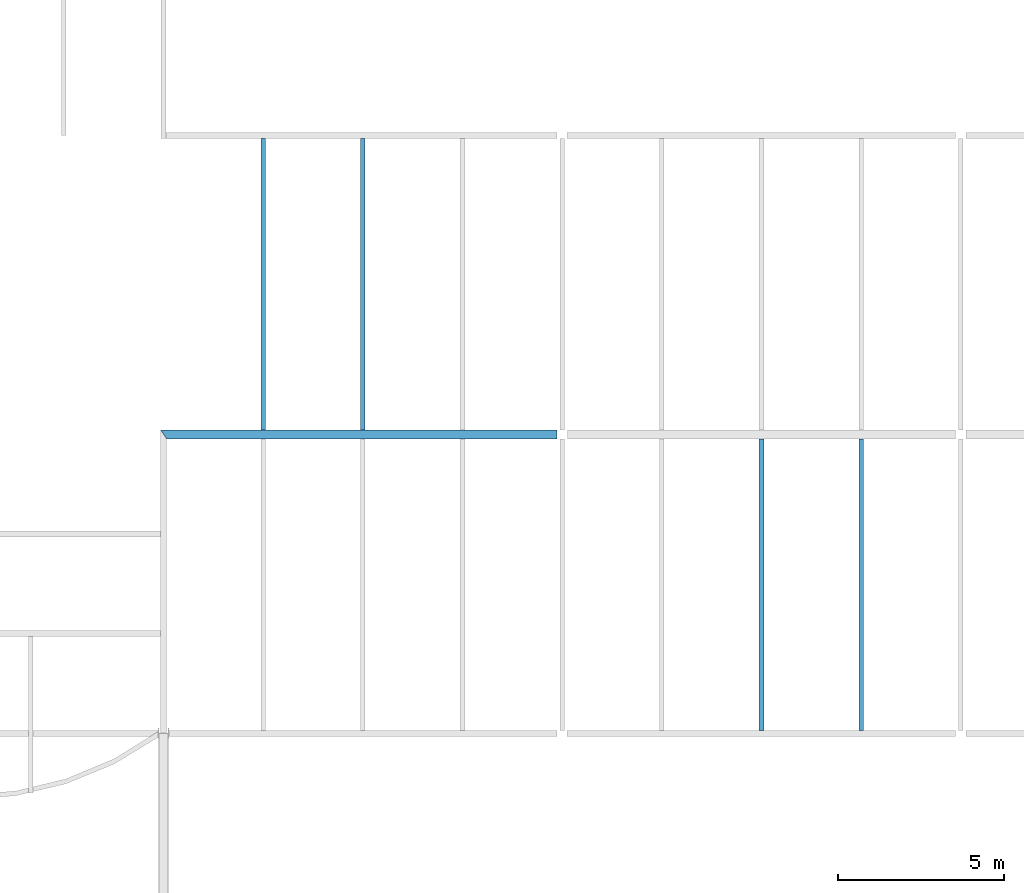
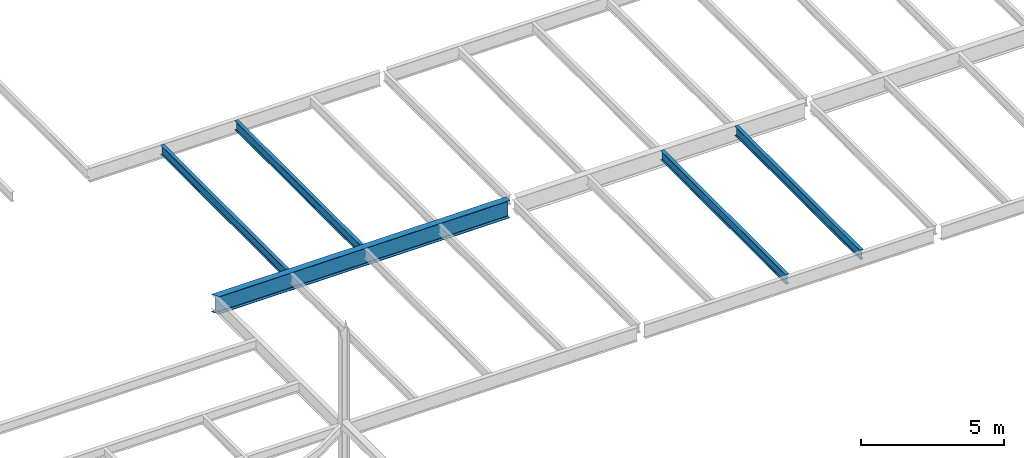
# One storey, part 11 of 21: 5 beams.
"""IFC2X3 building model written with IfcOpenShell, lengths in millimetres."""

from ifc_helpers import new_model, si_unit, origin, place, context, project, spatial, faceted_brep, material, element, save


model = new_model("IFC2X3")

# Units and contexts
context_of_model = context(None, 3, precision=1e-05, world=origin())
ifc_project = project(units=[si_unit("LENGTHUNIT", "METRE", prefix="MILLI")], contexts=[context_of_model])

# Building, storey
building = spatial("IfcBuilding", under=ifc_project, Name="Building", CompositionType="ELEMENT")
storey = spatial("IfcBuildingStorey", under=building, Name="FL6-FRM", CompositionType="ELEMENT")

# Beams
ifc_material_1 = material(Name="A992")
beam_1_placement = place(None, origin())
element("IfcBeam", 1, at=beam_1_placement, inside=storey, material=ifc_material_1, Name="B857", context=context_of_model, shape_type="Brep", body=[
    faceted_brep([(30070.0, 9089.5, 21970.0), (29930.0, 9089.5, 21970.0), (29930.0, 17867.5, 21970.0), (30070.0, 17867.5, 21970.0), (29930.0, 9089.5, 21981.2), (29930.0, 17867.5, 21981.2), (29986.3, 9089.5, 21981.2), (29986.3, 17867.5, 21981.2), (29988.9, 9089.5, 21981.5), (29988.9, 17867.5, 21981.5), (29991.4, 9089.5, 21982.6), (29991.4, 17867.5, 21982.6), (29993.5, 9089.5, 21984.2), (29993.5, 17867.5, 21984.2), (29995.1, 9089.5, 21986.3), (29995.1, 17867.5, 21986.3), (29996.2, 9089.5, 21988.8), (29996.2, 17867.5, 21988.8), (29996.5, 9089.5, 21991.4), (29996.5, 17867.5, 21991.4), (29996.5, 9089.5, 22351.6), (29996.5, 17867.5, 22351.6), (29996.2, 9089.5, 22354.2), (29996.2, 17867.5, 22354.2), (29995.1, 9089.5, 22356.7), (29995.1, 17867.5, 22356.7), (29993.5, 9089.5, 22358.8), (29993.5, 17867.5, 22358.8), (29991.4, 9089.5, 22360.4), (29991.4, 17867.5, 22360.4), (29988.9, 9089.5, 22361.5), (29988.9, 17867.5, 22361.5), (29986.3, 9089.5, 22361.8), (29986.3, 17867.5, 22361.8), (29930.0, 9089.5, 22361.8), (29930.0, 17867.5, 22361.8), (29930.0, 9089.5, 22373.0), (29930.0, 17867.5, 22373.0), (30070.0, 9089.5, 22373.0), (30070.0, 17867.5, 22373.0), (30070.0, 9089.5, 22361.8), (30070.0, 17867.5, 22361.8), (30013.7, 9089.5, 22361.8), (30013.7, 17867.5, 22361.8), (30011.1, 9089.5, 22361.5), (30011.1, 17867.5, 22361.5), (30008.6, 9089.5, 22360.4), (30008.6, 17867.5, 22360.4), (30006.5, 9089.5, 22358.8), (30006.5, 17867.5, 22358.8), (30004.9, 9089.5, 22356.7), (30004.9, 17867.5, 22356.7), (30003.8, 9089.5, 22354.2), (30003.8, 17867.5, 22354.2), (30003.5, 9089.5, 22351.6), (30003.5, 17867.5, 22351.6), (30003.5, 9089.5, 21991.4), (30003.5, 17867.5, 21991.4), (30003.8, 9089.5, 21988.8), (30003.8, 17867.5, 21988.8), (30004.9, 9089.5, 21986.3), (30004.9, 17867.5, 21986.3), (30006.5, 9089.5, 21984.2), (30006.5, 17867.5, 21984.2), (30008.6, 9089.5, 21982.6), (30008.6, 17867.5, 21982.6), (30011.1, 9089.5, 21981.5), (30011.1, 17867.5, 21981.5), (30013.7, 9089.5, 21981.2), (30013.7, 17867.5, 21981.2), (30070.0, 9089.5, 21981.2), (30070.0, 17867.5, 21981.2)], [[[0, 1, 2, 3]], [[1, 4, 5, 2]], [[4, 6, 7, 5]], [[6, 8, 9, 7]], [[8, 10, 11, 9]], [[10, 12, 13, 11]], [[12, 14, 15, 13]], [[14, 16, 17, 15]], [[16, 18, 19, 17]], [[18, 20, 21, 19]], [[20, 22, 23, 21]], [[22, 24, 25, 23]], [[24, 26, 27, 25]], [[26, 28, 29, 27]], [[28, 30, 31, 29]], [[30, 32, 33, 31]], [[32, 34, 35, 33]], [[34, 36, 37, 35]], [[36, 38, 39, 37]], [[38, 40, 41, 39]], [[40, 42, 43, 41]], [[42, 44, 45, 43]], [[44, 46, 47, 45]], [[46, 48, 49, 47]], [[48, 50, 51, 49]], [[50, 52, 53, 51]], [[52, 54, 55, 53]], [[54, 56, 57, 55]], [[56, 58, 59, 57]], [[58, 60, 61, 59]], [[60, 62, 63, 61]], [[62, 64, 65, 63]], [[64, 66, 67, 65]], [[66, 68, 69, 67]], [[68, 70, 71, 69]], [[70, 0, 3, 71]], [[0, 70, 68, 66, 64, 62, 60, 58, 56, 54, 52, 50, 48, 46, 44, 42, 40, 38, 36, 34, 32, 30, 28, 26, 24, 22, 20, 18, 16, 14, 12, 10, 8, 6, 4, 1]], [[3, 2, 5, 7, 9, 11, 13, 15, 17, 19, 21, 23, 25, 27, 29, 31, 33, 35, 37, 39, 41, 43, 45, 47, 49, 51, 53, 55, 57, 59, 61, 63, 65, 67, 69, 71]]]),
])
ifc_material_2 = material(Name="A992")
beam_2_placement = place(None, origin())
element("IfcBeam", 2, at=beam_2_placement, inside=storey, material=ifc_material_2, Name="B860", context=context_of_model, shape_type="Brep", body=[
    faceted_brep([(33070.0, 9089.5, 21970.0), (32930.0, 9089.5, 21970.0), (32930.0, 17867.5, 21970.0), (33070.0, 17867.5, 21970.0), (32930.0, 9089.5, 21981.2), (32930.0, 17867.5, 21981.2), (32986.3, 9089.5, 21981.2), (32986.3, 17867.5, 21981.2), (32988.9, 9089.5, 21981.5), (32988.9, 17867.5, 21981.5), (32991.4, 9089.5, 21982.6), (32991.4, 17867.5, 21982.6), (32993.5, 9089.5, 21984.2), (32993.5, 17867.5, 21984.2), (32995.1, 9089.5, 21986.3), (32995.1, 17867.5, 21986.3), (32996.2, 9089.5, 21988.8), (32996.2, 17867.5, 21988.8), (32996.5, 9089.5, 21991.4), (32996.5, 17867.5, 21991.4), (32996.5, 9089.5, 22351.6), (32996.5, 17867.5, 22351.6), (32996.2, 9089.5, 22354.2), (32996.2, 17867.5, 22354.2), (32995.1, 9089.5, 22356.7), (32995.1, 17867.5, 22356.7), (32993.5, 9089.5, 22358.8), (32993.5, 17867.5, 22358.8), (32991.4, 9089.5, 22360.4), (32991.4, 17867.5, 22360.4), (32988.9, 9089.5, 22361.5), (32988.9, 17867.5, 22361.5), (32986.3, 9089.5, 22361.8), (32986.3, 17867.5, 22361.8), (32930.0, 9089.5, 22361.8), (32930.0, 17867.5, 22361.8), (32930.0, 9089.5, 22373.0), (32930.0, 17867.5, 22373.0), (33070.0, 9089.5, 22373.0), (33070.0, 17867.5, 22373.0), (33070.0, 9089.5, 22361.8), (33070.0, 17867.5, 22361.8), (33013.7, 9089.5, 22361.8), (33013.7, 17867.5, 22361.8), (33011.1, 9089.5, 22361.5), (33011.1, 17867.5, 22361.5), (33008.6, 9089.5, 22360.4), (33008.6, 17867.5, 22360.4), (33006.5, 9089.5, 22358.8), (33006.5, 17867.5, 22358.8), (33004.9, 9089.5, 22356.7), (33004.9, 17867.5, 22356.7), (33003.8, 9089.5, 22354.2), (33003.8, 17867.5, 22354.2), (33003.5, 9089.5, 22351.6), (33003.5, 17867.5, 22351.6), (33003.5, 9089.5, 21991.4), (33003.5, 17867.5, 21991.4), (33003.8, 9089.5, 21988.8), (33003.8, 17867.5, 21988.8), (33004.9, 9089.5, 21986.3), (33004.9, 17867.5, 21986.3), (33006.5, 9089.5, 21984.2), (33006.5, 17867.5, 21984.2), (33008.6, 9089.5, 21982.6), (33008.6, 17867.5, 21982.6), (33011.1, 9089.5, 21981.5), (33011.1, 17867.5, 21981.5), (33013.7, 9089.5, 21981.2), (33013.7, 17867.5, 21981.2), (33070.0, 9089.5, 21981.2), (33070.0, 17867.5, 21981.2)], [[[0, 1, 2, 3]], [[1, 4, 5, 2]], [[4, 6, 7, 5]], [[6, 8, 9, 7]], [[8, 10, 11, 9]], [[10, 12, 13, 11]], [[12, 14, 15, 13]], [[14, 16, 17, 15]], [[16, 18, 19, 17]], [[18, 20, 21, 19]], [[20, 22, 23, 21]], [[22, 24, 25, 23]], [[24, 26, 27, 25]], [[26, 28, 29, 27]], [[28, 30, 31, 29]], [[30, 32, 33, 31]], [[32, 34, 35, 33]], [[34, 36, 37, 35]], [[36, 38, 39, 37]], [[38, 40, 41, 39]], [[40, 42, 43, 41]], [[42, 44, 45, 43]], [[44, 46, 47, 45]], [[46, 48, 49, 47]], [[48, 50, 51, 49]], [[50, 52, 53, 51]], [[52, 54, 55, 53]], [[54, 56, 57, 55]], [[56, 58, 59, 57]], [[58, 60, 61, 59]], [[60, 62, 63, 61]], [[62, 64, 65, 63]], [[64, 66, 67, 65]], [[66, 68, 69, 67]], [[68, 70, 71, 69]], [[70, 0, 3, 71]], [[0, 70, 68, 66, 64, 62, 60, 58, 56, 54, 52, 50, 48, 46, 44, 42, 40, 38, 36, 34, 32, 30, 28, 26, 24, 22, 20, 18, 16, 14, 12, 10, 8, 6, 4, 1]], [[3, 2, 5, 7, 9, 11, 13, 15, 17, 19, 21, 23, 25, 27, 29, 31, 33, 35, 37, 39, 41, 43, 45, 47, 49, 51, 53, 55, 57, 59, 61, 63, 65, 67, 69, 71]]]),
])
ifc_material_3 = material(Name="A992")
beam_3_placement = place(None, origin())
element("IfcBeam", 3, at=beam_3_placement, inside=storey, material=ifc_material_3, Name="B864", context=context_of_model, shape_type="Brep", body=[
    faceted_brep([(17930.0, 26910.5, 21970.0), (18070.0, 26910.5, 21970.0), (18070.0, 18132.5, 21970.0), (17930.0, 18132.5, 21970.0), (18070.0, 26910.5, 21981.2), (18070.0, 18132.5, 21981.2), (18013.7, 26910.5, 21981.2), (18013.7, 18132.5, 21981.2), (18011.1, 26910.5, 21981.5), (18011.1, 18132.5, 21981.5), (18008.6, 26910.5, 21982.6), (18008.6, 18132.5, 21982.6), (18006.5, 26910.5, 21984.2), (18006.5, 18132.5, 21984.2), (18004.9, 26910.5, 21986.3), (18004.9, 18132.5, 21986.3), (18003.8, 26910.5, 21988.8), (18003.8, 18132.5, 21988.8), (18003.5, 26910.5, 21991.4), (18003.5, 18132.5, 21991.4), (18003.5, 26910.5, 22351.6), (18003.5, 18132.5, 22351.6), (18003.8, 26910.5, 22354.2), (18003.8, 18132.5, 22354.2), (18004.9, 26910.5, 22356.7), (18004.9, 18132.5, 22356.7), (18006.5, 26910.5, 22358.8), (18006.5, 18132.5, 22358.8), (18008.6, 26910.5, 22360.4), (18008.6, 18132.5, 22360.4), (18011.1, 26910.5, 22361.5), (18011.1, 18132.5, 22361.5), (18013.7, 26910.5, 22361.8), (18013.7, 18132.5, 22361.8), (18070.0, 26910.5, 22361.8), (18070.0, 18132.5, 22361.8), (18070.0, 26910.5, 22373.0), (18070.0, 18132.5, 22373.0), (17930.0, 26910.5, 22373.0), (17930.0, 18132.5, 22373.0), (17930.0, 26910.5, 22361.8), (17930.0, 18132.5, 22361.8), (17986.3, 26910.5, 22361.8), (17986.3, 18132.5, 22361.8), (17988.9, 26910.5, 22361.5), (17988.9, 18132.5, 22361.5), (17991.4, 26910.5, 22360.4), (17991.4, 18132.5, 22360.4), (17993.5, 26910.5, 22358.8), (17993.5, 18132.5, 22358.8), (17995.1, 26910.5, 22356.7), (17995.1, 18132.5, 22356.7), (17996.2, 26910.5, 22354.2), (17996.2, 18132.5, 22354.2), (17996.5, 26910.5, 22351.6), (17996.5, 18132.5, 22351.6), (17996.5, 26910.5, 21991.4), (17996.5, 18132.5, 21991.4), (17996.2, 26910.5, 21988.8), (17996.2, 18132.5, 21988.8), (17995.1, 26910.5, 21986.3), (17995.1, 18132.5, 21986.3), (17993.5, 26910.5, 21984.2), (17993.5, 18132.5, 21984.2), (17991.4, 26910.5, 21982.6), (17991.4, 18132.5, 21982.6), (17988.9, 26910.5, 21981.5), (17988.9, 18132.5, 21981.5), (17986.3, 26910.5, 21981.2), (17986.3, 18132.5, 21981.2), (17930.0, 26910.5, 21981.2), (17930.0, 18132.5, 21981.2)], [[[0, 1, 2, 3]], [[1, 4, 5, 2]], [[4, 6, 7, 5]], [[6, 8, 9, 7]], [[8, 10, 11, 9]], [[10, 12, 13, 11]], [[12, 14, 15, 13]], [[14, 16, 17, 15]], [[16, 18, 19, 17]], [[18, 20, 21, 19]], [[20, 22, 23, 21]], [[22, 24, 25, 23]], [[24, 26, 27, 25]], [[26, 28, 29, 27]], [[28, 30, 31, 29]], [[30, 32, 33, 31]], [[32, 34, 35, 33]], [[34, 36, 37, 35]], [[36, 38, 39, 37]], [[38, 40, 41, 39]], [[40, 42, 43, 41]], [[42, 44, 45, 43]], [[44, 46, 47, 45]], [[46, 48, 49, 47]], [[48, 50, 51, 49]], [[50, 52, 53, 51]], [[52, 54, 55, 53]], [[54, 56, 57, 55]], [[56, 58, 59, 57]], [[58, 60, 61, 59]], [[60, 62, 63, 61]], [[62, 64, 65, 63]], [[64, 66, 67, 65]], [[66, 68, 69, 67]], [[68, 70, 71, 69]], [[70, 0, 3, 71]], [[0, 70, 68, 66, 64, 62, 60, 58, 56, 54, 52, 50, 48, 46, 44, 42, 40, 38, 36, 34, 32, 30, 28, 26, 24, 22, 20, 18, 16, 14, 12, 10, 8, 6, 4, 1]], [[3, 2, 5, 7, 9, 11, 13, 15, 17, 19, 21, 23, 25, 27, 29, 31, 33, 35, 37, 39, 41, 43, 45, 47, 49, 51, 53, 55, 57, 59, 61, 63, 65, 67, 69, 71]]]),
])
ifc_material_4 = material(Name="A992")
beam_4_placement = place(None, origin())
element("IfcBeam", 4, at=beam_4_placement, inside=storey, material=ifc_material_4, Name="Column603", context=context_of_model, shape_type="Brep", body=[
    faceted_brep([(12089.5, 17867.5, 21620.0), (11910.5, 18132.5, 21620.0), (23843.0, 18132.5, 21620.0), (23843.0, 17867.5, 21620.0), (11910.5, 18132.5, 21637.0), (23843.0, 18132.5, 21637.0), (11984.4, 18023.1, 21637.0), (23843.0, 18023.1, 21637.0), (11986.0, 18020.8, 21637.1), (23843.0, 18020.8, 21637.2), (11987.5, 18018.5, 21637.7), (23843.0, 18018.5, 21637.7), (11989.0, 18016.3, 21638.5), (23843.0, 18016.2, 21638.5), (11990.4, 18014.2, 21639.6), (23843.0, 18014.2, 21639.6), (11991.7, 18012.3, 21641.0), (23843.0, 18012.3, 21641.0), (11992.8, 18010.7, 21642.7), (23843.0, 18010.6, 21642.7), (11993.8, 18009.2, 21644.5), (23843.0, 18009.2, 21644.6), (11994.5, 18008.1, 21646.6), (23843.0, 18008.1, 21646.6), (11995.1, 18007.3, 21648.8), (23843.0, 18007.3, 21648.9), (11995.4, 18006.8, 21651.1), (23843.0, 18006.8, 21651.2), (11995.5, 18006.6, 21653.5), (23843.0, 18006.6, 21653.5), (11995.5, 18006.6, 22339.5), (23843.0, 18006.6, 22339.5), (11995.4, 18006.8, 22341.9), (23843.0, 18006.8, 22341.8), (11995.1, 18007.3, 22344.2), (23843.0, 18007.3, 22344.1), (11994.5, 18008.1, 22346.4), (23843.0, 18008.1, 22346.4), (11993.8, 18009.2, 22348.5), (23843.0, 18009.2, 22348.4), (11992.8, 18010.7, 22350.3), (23843.0, 18010.6, 22350.3), (11991.7, 18012.3, 22352.0), (23843.0, 18012.3, 22352.0), (11990.4, 18014.2, 22353.4), (23843.0, 18014.2, 22353.4), (11989.0, 18016.3, 22354.5), (23843.0, 18016.2, 22354.5), (11987.5, 18018.5, 22355.3), (23843.0, 18018.5, 22355.3), (11986.0, 18020.8, 22355.9), (23843.0, 18020.8, 22355.8), (11984.4, 18023.1, 22356.0), (23843.0, 18023.1, 22356.0), (11910.5, 18132.5, 22356.0), (23843.0, 18132.5, 22356.0), (11910.5, 18132.5, 22373.0), (23843.0, 18132.5, 22373.0), (12089.5, 17867.5, 22373.0), (23843.0, 17867.5, 22373.0), (12089.5, 17867.5, 22356.0), (23843.0, 17867.5, 22356.0), (12015.6, 17976.9, 22356.0), (23843.0, 17976.9, 22356.0), (12014.0, 17979.2, 22355.9), (23843.0, 17979.2, 22355.8), (12012.5, 17981.5, 22355.3), (23843.0, 17981.5, 22355.3), (12011.0, 17983.7, 22354.5), (23843.0, 17983.8, 22354.5), (12009.6, 17985.8, 22353.4), (23843.0, 17985.8, 22353.4), (12008.3, 17987.7, 22352.0), (23843.0, 17987.7, 22352.0), (12007.2, 17989.3, 22350.3), (23843.0, 17989.4, 22350.3), (12006.2, 17990.8, 22348.5), (23843.0, 17990.8, 22348.4), (12005.5, 17991.9, 22346.4), (23843.0, 17991.9, 22346.4), (12004.9, 17992.7, 22344.2), (23843.0, 17992.7, 22344.1), (12004.6, 17993.2, 22341.9), (23843.0, 17993.2, 22341.8), (12004.5, 17993.4, 22339.5), (23843.0, 17993.4, 22339.5), (12004.5, 17993.4, 21653.5), (23843.0, 17993.4, 21653.5), (12004.6, 17993.2, 21651.1), (23843.0, 17993.2, 21651.2), (12004.9, 17992.7, 21648.8), (23843.0, 17992.7, 21648.9), (12005.5, 17991.9, 21646.6), (23843.0, 17991.9, 21646.6), (12006.2, 17990.8, 21644.5), (23843.0, 17990.8, 21644.6), (12007.2, 17989.3, 21642.7), (23843.0, 17989.4, 21642.7), (12008.3, 17987.7, 21641.0), (23843.0, 17987.7, 21641.0), (12009.6, 17985.8, 21639.6), (23843.0, 17985.8, 21639.6), (12011.0, 17983.7, 21638.5), (23843.0, 17983.8, 21638.5), (12012.5, 17981.5, 21637.7), (23843.0, 17981.5, 21637.7), (12014.0, 17979.2, 21637.1), (23843.0, 17979.2, 21637.2), (12015.6, 17976.9, 21637.0), (23843.0, 17976.9, 21637.0), (12089.5, 17867.5, 21637.0), (23843.0, 17867.5, 21637.0)], [[[0, 1, 2, 3]], [[1, 4, 5, 2]], [[4, 6, 7, 5]], [[6, 8, 9, 7]], [[8, 10, 11, 9]], [[10, 12, 13, 11]], [[12, 14, 15, 13]], [[14, 16, 17, 15]], [[16, 18, 19, 17]], [[18, 20, 21, 19]], [[20, 22, 23, 21]], [[22, 24, 25, 23]], [[24, 26, 27, 25]], [[26, 28, 29, 27]], [[28, 30, 31, 29]], [[30, 32, 33, 31]], [[32, 34, 35, 33]], [[34, 36, 37, 35]], [[36, 38, 39, 37]], [[38, 40, 41, 39]], [[40, 42, 43, 41]], [[42, 44, 45, 43]], [[44, 46, 47, 45]], [[46, 48, 49, 47]], [[48, 50, 51, 49]], [[50, 52, 53, 51]], [[52, 54, 55, 53]], [[54, 56, 57, 55]], [[56, 58, 59, 57]], [[58, 60, 61, 59]], [[60, 62, 63, 61]], [[62, 64, 65, 63]], [[64, 66, 67, 65]], [[66, 68, 69, 67]], [[68, 70, 71, 69]], [[70, 72, 73, 71]], [[72, 74, 75, 73]], [[74, 76, 77, 75]], [[76, 78, 79, 77]], [[78, 80, 81, 79]], [[80, 82, 83, 81]], [[82, 84, 85, 83]], [[84, 86, 87, 85]], [[86, 88, 89, 87]], [[88, 90, 91, 89]], [[90, 92, 93, 91]], [[92, 94, 95, 93]], [[94, 96, 97, 95]], [[96, 98, 99, 97]], [[98, 100, 101, 99]], [[100, 102, 103, 101]], [[102, 104, 105, 103]], [[104, 106, 107, 105]], [[106, 108, 109, 107]], [[108, 110, 111, 109]], [[110, 0, 3, 111]], [[0, 110, 108, 106, 104, 102, 100, 98, 96, 94, 92, 90, 88, 86, 84, 82, 80, 78, 76, 74, 72, 70, 68, 66, 64, 62, 60, 58, 56, 54, 52, 50, 48, 46, 44, 42, 40, 38, 36, 34, 32, 30, 28, 26, 24, 22, 20, 18, 16, 14, 12, 10, 8, 6, 4, 1]], [[3, 2, 5, 7, 9, 11, 13, 15, 17, 19, 21, 23, 25, 27, 29, 31, 33, 35, 37, 39, 41, 43, 45, 47, 49, 51, 53, 55, 57, 59, 61, 63, 65, 67, 69, 71, 73, 75, 77, 79, 81, 83, 85, 87, 89, 91, 93, 95, 97, 99, 101, 103, 105, 107, 109, 111]]]),
])
ifc_material_5 = material(Name="A992")
beam_5_placement = place(None, origin())
element("IfcBeam", 5, at=beam_5_placement, inside=storey, material=ifc_material_5, Name="B924", context=context_of_model, shape_type="Brep", body=[
    faceted_brep([(14930.0, 26910.5, 21970.0), (15070.0, 26910.5, 21970.0), (15070.0, 18132.5, 21970.0), (14930.0, 18132.5, 21970.0), (15070.0, 26910.5, 21981.2), (15070.0, 18132.5, 21981.2), (15013.7, 26910.5, 21981.2), (15013.7, 18132.5, 21981.2), (15011.1, 26910.5, 21981.5), (15011.1, 18132.5, 21981.5), (15008.6, 26910.5, 21982.6), (15008.6, 18132.5, 21982.6), (15006.5, 26910.5, 21984.2), (15006.5, 18132.5, 21984.2), (15004.9, 26910.5, 21986.3), (15004.9, 18132.5, 21986.3), (15003.8, 26910.5, 21988.8), (15003.8, 18132.5, 21988.8), (15003.5, 26910.5, 21991.4), (15003.5, 18132.5, 21991.4), (15003.5, 26910.5, 22351.6), (15003.5, 18132.5, 22351.6), (15003.8, 26910.5, 22354.2), (15003.8, 18132.5, 22354.2), (15004.9, 26910.5, 22356.7), (15004.9, 18132.5, 22356.7), (15006.5, 26910.5, 22358.8), (15006.5, 18132.5, 22358.8), (15008.6, 26910.5, 22360.4), (15008.6, 18132.5, 22360.4), (15011.1, 26910.5, 22361.5), (15011.1, 18132.5, 22361.5), (15013.7, 26910.5, 22361.8), (15013.7, 18132.5, 22361.8), (15070.0, 26910.5, 22361.8), (15070.0, 18132.5, 22361.8), (15070.0, 26910.5, 22373.0), (15070.0, 18132.5, 22373.0), (14930.0, 26910.5, 22373.0), (14930.0, 18132.5, 22373.0), (14930.0, 26910.5, 22361.8), (14930.0, 18132.5, 22361.8), (14986.3, 26910.5, 22361.8), (14986.3, 18132.5, 22361.8), (14988.9, 26910.5, 22361.5), (14988.9, 18132.5, 22361.5), (14991.4, 26910.5, 22360.4), (14991.4, 18132.5, 22360.4), (14993.5, 26910.5, 22358.8), (14993.5, 18132.5, 22358.8), (14995.1, 26910.5, 22356.7), (14995.1, 18132.5, 22356.7), (14996.2, 26910.5, 22354.2), (14996.2, 18132.5, 22354.2), (14996.5, 26910.5, 22351.6), (14996.5, 18132.5, 22351.6), (14996.5, 26910.5, 21991.4), (14996.5, 18132.5, 21991.4), (14996.2, 26910.5, 21988.8), (14996.2, 18132.5, 21988.8), (14995.1, 26910.5, 21986.3), (14995.1, 18132.5, 21986.3), (14993.5, 26910.5, 21984.2), (14993.5, 18132.5, 21984.2), (14991.4, 26910.5, 21982.6), (14991.4, 18132.5, 21982.6), (14988.9, 26910.5, 21981.5), (14988.9, 18132.5, 21981.5), (14986.3, 26910.5, 21981.2), (14986.3, 18132.5, 21981.2), (14930.0, 26910.5, 21981.2), (14930.0, 18132.5, 21981.2)], [[[0, 1, 2, 3]], [[1, 4, 5, 2]], [[4, 6, 7, 5]], [[6, 8, 9, 7]], [[8, 10, 11, 9]], [[10, 12, 13, 11]], [[12, 14, 15, 13]], [[14, 16, 17, 15]], [[16, 18, 19, 17]], [[18, 20, 21, 19]], [[20, 22, 23, 21]], [[22, 24, 25, 23]], [[24, 26, 27, 25]], [[26, 28, 29, 27]], [[28, 30, 31, 29]], [[30, 32, 33, 31]], [[32, 34, 35, 33]], [[34, 36, 37, 35]], [[36, 38, 39, 37]], [[38, 40, 41, 39]], [[40, 42, 43, 41]], [[42, 44, 45, 43]], [[44, 46, 47, 45]], [[46, 48, 49, 47]], [[48, 50, 51, 49]], [[50, 52, 53, 51]], [[52, 54, 55, 53]], [[54, 56, 57, 55]], [[56, 58, 59, 57]], [[58, 60, 61, 59]], [[60, 62, 63, 61]], [[62, 64, 65, 63]], [[64, 66, 67, 65]], [[66, 68, 69, 67]], [[68, 70, 71, 69]], [[70, 0, 3, 71]], [[0, 70, 68, 66, 64, 62, 60, 58, 56, 54, 52, 50, 48, 46, 44, 42, 40, 38, 36, 34, 32, 30, 28, 26, 24, 22, 20, 18, 16, 14, 12, 10, 8, 6, 4, 1]], [[3, 2, 5, 7, 9, 11, 13, 15, 17, 19, 21, 23, 25, 27, 29, 31, 33, 35, 37, 39, 41, 43, 45, 47, 49, 51, 53, 55, 57, 59, 61, 63, 65, 67, 69, 71]]]),
])

save(model, "model.ifc")
